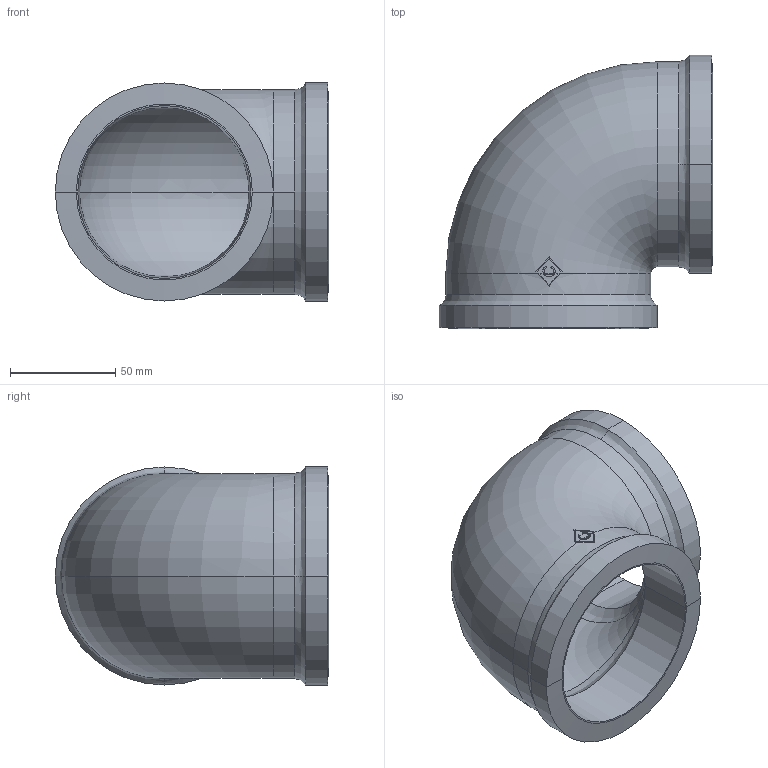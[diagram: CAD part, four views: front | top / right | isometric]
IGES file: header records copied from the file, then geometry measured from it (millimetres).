
Global section: file name: No Iges File Name specified; native system: AutoDesk Inventor R12.0; preprocessor: AutoDesk Inventor Iges Exporter R12.0; date: 20090915.161316; units: millimetre
Bounding box: 130.05 x 130.05 x 103.7 mm (x, y, z)
Volume: 259697.8 mm3; surface area: 84721.7 mm2
Topology: 1 solids, 1 shells, 54 faces, 143 edges, 91 vertices
Faces by surface type: bspline 14, cylinder 12, plane 12, revolution 6, torus 6, cone 4
